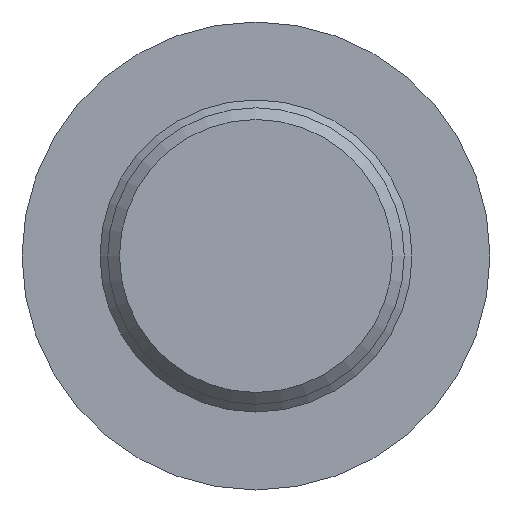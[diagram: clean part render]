
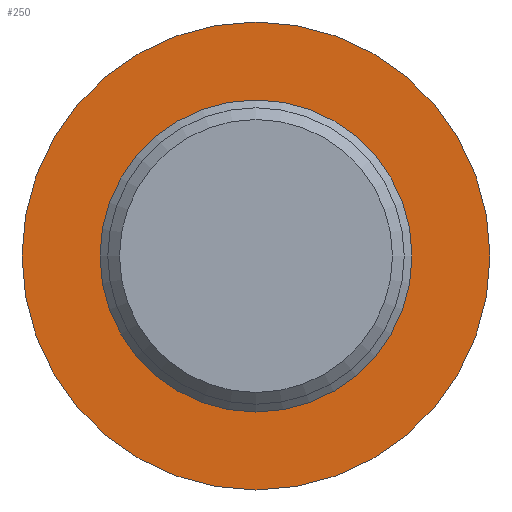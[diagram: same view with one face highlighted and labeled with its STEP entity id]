
A CAD part, front view. The second image highlights one B-rep face of the part: STEP entity #250.
In plain terms, the highlighted planar face has unit normal (0, -1, 0).
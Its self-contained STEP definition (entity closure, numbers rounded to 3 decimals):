
#17=FACE_BOUND('',#61,.T.);
#30=PLANE('',#303);
#43=FACE_OUTER_BOUND('',#60,.T.);
#60=EDGE_LOOP('',(#214,#215));
#61=EDGE_LOOP('',(#216,#217));
#100=CIRCLE('',#301,4.);
#101=CIRCLE('',#302,4.);
#102=CIRCLE('',#304,6.);
#103=CIRCLE('',#305,6.);
#126=VERTEX_POINT('',#456);
#127=VERTEX_POINT('',#457);
#128=VERTEX_POINT('',#462);
#129=VERTEX_POINT('',#463);
#157=EDGE_CURVE('',#126,#127,#100,.T.);
#158=EDGE_CURVE('',#127,#126,#101,.T.);
#160=EDGE_CURVE('',#128,#129,#102,.T.);
#161=EDGE_CURVE('',#129,#128,#103,.T.);
#214=ORIENTED_EDGE('',*,*,#160,.F.);
#215=ORIENTED_EDGE('',*,*,#161,.F.);
#216=ORIENTED_EDGE('',*,*,#157,.T.);
#217=ORIENTED_EDGE('',*,*,#158,.T.);
#250=ADVANCED_FACE('',(#43,#17),#30,.T.);
#301=AXIS2_PLACEMENT_3D('',#458,#375,#376);
#302=AXIS2_PLACEMENT_3D('',#459,#377,#378);
#303=AXIS2_PLACEMENT_3D('',#461,#380,#381);
#304=AXIS2_PLACEMENT_3D('',#464,#382,#383);
#305=AXIS2_PLACEMENT_3D('',#465,#384,#385);
#375=DIRECTION('center_axis',(0.,1.,0.));
#376=DIRECTION('ref_axis',(1.,0.,0.));
#377=DIRECTION('center_axis',(0.,1.,0.));
#378=DIRECTION('ref_axis',(1.,0.,0.));
#380=DIRECTION('center_axis',(0.,-1.,0.));
#381=DIRECTION('ref_axis',(0.,0.,-1.));
#382=DIRECTION('center_axis',(0.,1.,0.));
#383=DIRECTION('ref_axis',(1.,0.,0.));
#384=DIRECTION('center_axis',(0.,1.,0.));
#385=DIRECTION('ref_axis',(1.,0.,0.));
#456=CARTESIAN_POINT('',(0.,-590.,4.));
#457=CARTESIAN_POINT('',(0.,-590.,-4.));
#458=CARTESIAN_POINT('Origin',(0.,-590.,0.));
#459=CARTESIAN_POINT('Origin',(0.,-590.,0.));
#461=CARTESIAN_POINT('Origin',(0.,-590.,6.));
#462=CARTESIAN_POINT('',(0.,-590.,6.));
#463=CARTESIAN_POINT('',(0.,-590.,-6.));
#464=CARTESIAN_POINT('Origin',(0.,-590.,0.));
#465=CARTESIAN_POINT('Origin',(0.,-590.,0.));
